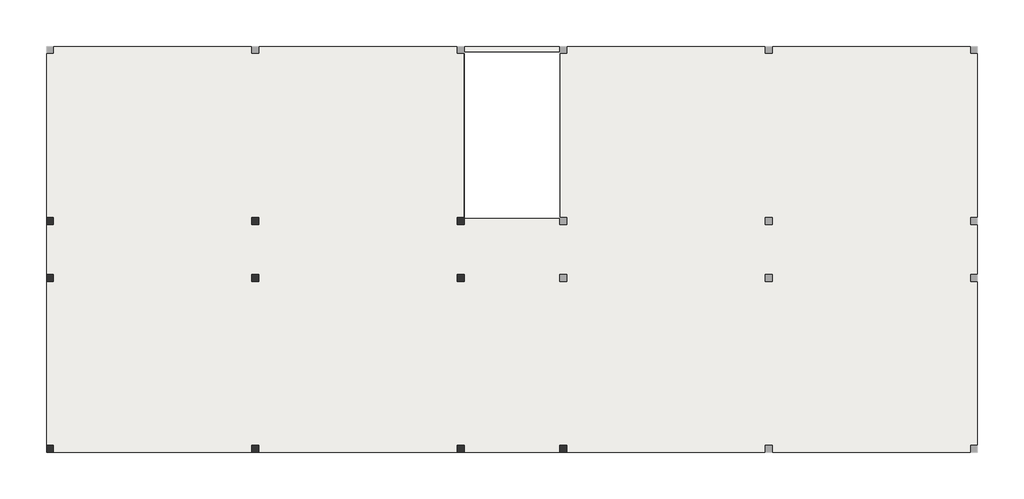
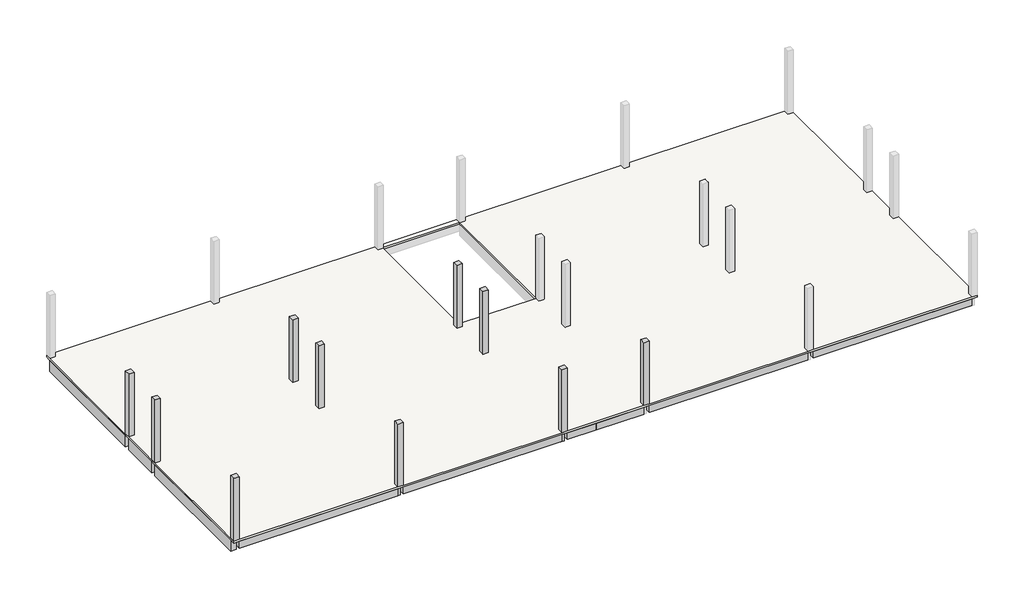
# One storey, part 1 of 2: 10 columns, 9 beams, 1 slab.
"""IFC4 building model written with IfcOpenShell, lengths in millimetres."""

from ifc_helpers import new_model, si_unit, frame, origin, place, context, project, spatial, polyline, outline, extrude, faceted_brep, element, save

model = new_model("IFC4")

# Units and contexts
model_context = context("Model", 3, world=origin())
ifc_project = project(units=[si_unit("LENGTHUNIT", "METRE", prefix="MILLI")], contexts=[model_context])

# Site, building, storey
site = spatial("IfcSite", under=ifc_project)
building = spatial("IfcBuilding", under=site)
storey = spatial("IfcBuildingStorey", under=building, Name="标高 3", Elevation=6000.0)

# Beams
placement = place(None, origin())
element("IfcBeam", 1, ObjectType="混凝土 - 矩形梁 : KL1", at=placement, inside=storey, context=model_context, shape_type="Brep", body=[
    faceted_brep([(-16195.2046881, -564.7297059, 5400.0), (-16195.2046881, 5195.2702941, 5400.0), (-16195.2046881, 5195.2702941, 5920.0), (-16195.2046881, 3415.2702941, 5920.0), (-16195.2046881, 3215.2702941, 5920.0), (-16195.2046881, 1415.2702941, 5920.0), (-16195.2046881, 1215.2702941, 5920.0), (-16195.2046881, -564.7297059, 5920.0), (-16435.2046881, -564.7297059, 5400.0), (-16435.2046881, 5195.2702941, 5400.0), (-16435.2046881, -564.7297059, 5920.0), (-16435.2046881, 5195.2702941, 5920.0)], [[[0, 1, 2, 3, 4, 5, 6, 7]], [[0, 8, 9, 1]], [[9, 8, 10, 11]], [[8, 0, 7, 10]], [[1, 9, 11, 2]], [[7, 6, 5, 4, 3, 2, 11, 10]]]),
    faceted_brep([(-16435.2046881, -8564.7297059, 5400.0), (-16195.2046881, -8564.7297059, 5400.0), (-16195.2046881, -8564.7297059, 5920.0), (-16435.2046881, -8564.7297059, 5920.0), (-16195.2046881, -2804.7297059, 5400.0), (-16435.2046881, -2804.7297059, 5400.0), (-16435.2046881, -2804.7297059, 5920.0), (-16195.2046881, -2804.7297059, 5920.0), (-16195.2046881, -4584.7297059, 5920.0), (-16195.2046881, -4784.7297059, 5920.0), (-16195.2046881, -6584.7297059, 5920.0), (-16195.2046881, -6784.7297059, 5920.0)], [[[0, 1, 2, 3]], [[4, 5, 6, 7]], [[1, 4, 7, 8, 9, 10, 11, 2]], [[1, 0, 5, 4]], [[5, 0, 3, 6]], [[3, 2, 11, 10, 9, 8, 7, 6]]]),
    faceted_brep([(-16435.2046881, -2564.7297059, 5400.0), (-16195.2046881, -2564.7297059, 5400.0), (-16195.2046881, -2564.7297059, 5920.0), (-16435.2046881, -2564.7297059, 5920.0), (-16195.2046881, -804.7297059, 5400.0), (-16435.2046881, -804.7297059, 5400.0), (-16435.2046881, -804.7297059, 5920.0), (-16195.2046881, -804.7297059, 5920.0)], [[[0, 1, 2, 3]], [[4, 5, 6, 7]], [[1, 0, 5, 4]], [[1, 4, 7, 2]], [[5, 0, 3, 6]], [[3, 2, 7, 6]]]),
])
element("IfcBeam", 2, ObjectType="混凝土 - 矩形梁 : KL1", at=placement, inside=storey, context=model_context, shape_type="Brep", body=[
    faceted_brep([(-8995.2046881, -564.7297059, 5400.0), (-8995.2046881, 5195.2702941, 5400.0), (-8995.2046881, 5195.2702941, 5920.0), (-8995.2046881, 3415.2702941, 5920.0), (-8995.2046881, 3215.2702941, 5920.0), (-8995.2046881, 1415.2702941, 5920.0), (-8995.2046881, 1215.2702941, 5920.0), (-8995.2046881, -564.7297059, 5920.0), (-9235.2046881, -564.7297059, 5400.0), (-9235.2046881, 5195.2702941, 5400.0), (-9235.2046881, -564.7297059, 5920.0), (-9235.2046881, 1215.2702941, 5920.0), (-9235.2046881, 1415.2702941, 5920.0), (-9235.2046881, 3215.2702941, 5920.0), (-9235.2046881, 3415.2702941, 5920.0), (-9235.2046881, 5195.2702941, 5920.0)], [[[0, 1, 2, 3, 4, 5, 6, 7]], [[0, 8, 9, 1]], [[9, 8, 10, 11, 12, 13, 14, 15]], [[8, 0, 7, 10]], [[1, 9, 15, 2]], [[7, 6, 5, 4, 3, 2, 15, 14, 13, 12, 11, 10]]]),
    faceted_brep([(-9235.2046881, -8564.7297059, 5400.0), (-8995.2046881, -8564.7297059, 5400.0), (-8995.2046881, -8564.7297059, 5920.0), (-9235.2046881, -8564.7297059, 5920.0), (-8995.2046881, -2804.7297059, 5400.0), (-9235.2046881, -2804.7297059, 5400.0), (-9235.2046881, -2804.7297059, 5920.0), (-8995.2046881, -2804.7297059, 5920.0), (-8995.2046881, -4584.7297059, 5920.0), (-8995.2046881, -4784.7297059, 5920.0), (-8995.2046881, -6584.7297059, 5920.0), (-8995.2046881, -6784.7297059, 5920.0), (-9235.2046881, -6784.7297059, 5920.0), (-9235.2046881, -6584.7297059, 5920.0), (-9235.2046881, -4784.7297059, 5920.0), (-9235.2046881, -4584.7297059, 5920.0)], [[[0, 1, 2, 3]], [[4, 5, 6, 7]], [[1, 4, 7, 8, 9, 10, 11, 2]], [[1, 0, 5, 4]], [[5, 0, 3, 12, 13, 14, 15, 6]], [[3, 2, 11, 10, 9, 8, 7, 6, 15, 14, 13, 12]]]),
    faceted_brep([(-9235.2046881, -2564.7297059, 5400.0), (-8995.2046881, -2564.7297059, 5400.0), (-8995.2046881, -2564.7297059, 5920.0), (-9235.2046881, -2564.7297059, 5920.0), (-8995.2046881, -804.7297059, 5400.0), (-9235.2046881, -804.7297059, 5400.0), (-9235.2046881, -804.7297059, 5920.0), (-8995.2046881, -804.7297059, 5920.0)], [[[0, 1, 2, 3]], [[4, 5, 6, 7]], [[1, 0, 5, 4]], [[1, 4, 7, 2]], [[5, 0, 3, 6]], [[3, 2, 7, 6]]]),
])
element("IfcBeam", 3, ObjectType="混凝土 - 矩形梁 : KL1", at=placement, inside=storey, context=model_context, shape_type="Brep", body=[
    faceted_brep([(-1795.2046881, -564.7297059, 5400.0), (-1795.2046881, 5195.2702941, 5400.0), (-1795.2046881, 5195.2702941, 5920.0), (-1795.2046881, -564.7297059, 5920.0), (-2035.2046881, -564.7297059, 5400.0), (-2035.2046881, 5195.2702941, 5400.0), (-2035.2046881, -564.7297059, 5920.0), (-2035.2046881, 1215.2702941, 5920.0), (-2035.2046881, 1415.2702941, 5920.0), (-2035.2046881, 3215.2702941, 5920.0), (-2035.2046881, 3415.2702941, 5920.0), (-2035.2046881, 5195.2702941, 5920.0)], [[[0, 1, 2, 3]], [[0, 4, 5, 1]], [[5, 4, 6, 7, 8, 9, 10, 11]], [[4, 0, 3, 6]], [[1, 5, 11, 2]], [[3, 2, 11, 10, 9, 8, 7, 6]]]),
    faceted_brep([(-2035.2046881, -8564.7297059, 5400.0), (-1795.2046881, -8564.7297059, 5400.0), (-1795.2046881, -8564.7297059, 5920.0), (-2035.2046881, -8564.7297059, 5920.0), (-1795.2046881, -2804.7297059, 5400.0), (-2035.2046881, -2804.7297059, 5400.0), (-2035.2046881, -2804.7297059, 5920.0), (-1795.2046881, -2804.7297059, 5920.0), (-2035.2046881, -6784.7297059, 5920.0), (-2035.2046881, -6584.7297059, 5920.0), (-2035.2046881, -4784.7297059, 5920.0), (-2035.2046881, -4584.7297059, 5920.0)], [[[0, 1, 2, 3]], [[4, 5, 6, 7]], [[1, 4, 7, 2]], [[1, 0, 5, 4]], [[5, 0, 3, 8, 9, 10, 11, 6]], [[3, 2, 7, 6, 11, 10, 9, 8]]]),
    faceted_brep([(-2035.2046881, -2564.7297059, 5400.0), (-1795.2046881, -2564.7297059, 5400.0), (-1795.2046881, -2564.7297059, 5920.0), (-2035.2046881, -2564.7297059, 5920.0), (-1795.2046881, -804.7297059, 5400.0), (-2035.2046881, -804.7297059, 5400.0), (-2035.2046881, -804.7297059, 5920.0), (-1795.2046881, -804.7297059, 5920.0)], [[[0, 1, 2, 3]], [[4, 5, 6, 7]], [[1, 0, 5, 4]], [[1, 4, 7, 2]], [[5, 0, 3, 6]], [[3, 2, 7, 6]]]),
])
element("IfcBeam", 4, ObjectType="混凝土 - 矩形梁 : KL2", at=placement, inside=storey, context=model_context, shape_type="SweptSolid", body=[
    extrude(outline(polyline([(-535.2046881, -8804.7297059), (-1795.2046881, -8804.7297059), (-1795.2046881, -8604.7297059), (-535.2046881, -8604.7297059), (-535.2046881, -8804.7297059)])), frame((0.0, 0.0, 5600.0), z_axis=(0.0, 0.0, 1.0), x_axis=(1.0, 0.0, 0.0)), (0.0, 0.0, 1.0), 320.0),
    extrude(outline(polyline([(-16195.2046881, -8804.7297059), (-16195.2046881, -8604.7297059), (-9235.2046881, -8604.7297059), (-9235.2046881, -8804.7297059), (-16195.2046881, -8804.7297059)])), frame((0.0, 0.0, 5600.0), z_axis=(0.0, 0.0, 1.0), x_axis=(1.0, 0.0, 0.0)), (0.0, 0.0, 1.0), 320.0),
    extrude(outline(polyline([(-8995.2046881, -8804.7297059), (-8995.2046881, -8604.7297059), (-2035.2046881, -8604.7297059), (-2035.2046881, -8804.7297059), (-8995.2046881, -8804.7297059)])), frame((0.0, 0.0, 5600.0), z_axis=(0.0, 0.0, 1.0), x_axis=(1.0, 0.0, 0.0)), (0.0, 0.0, 1.0), 320.0),
])
element("IfcBeam", 5, ObjectType="混凝土 - 矩形梁 : KL2", at=placement, inside=storey, context=model_context, shape_type="SweptSolid", body=[
    extrude(outline(polyline([(-8995.2046881, -2784.7297059), (-8995.2046881, -2584.7297059), (-2035.2046881, -2584.7297059), (-2035.2046881, -2784.7297059), (-8995.2046881, -2784.7297059)])), frame((0.0, 0.0, 5600.0), z_axis=(0.0, 0.0, 1.0), x_axis=(1.0, 0.0, 0.0)), (0.0, 0.0, 1.0), 320.0),
    extrude(outline(polyline([(-16195.2046881, -2784.7297059), (-16195.2046881, -2584.7297059), (-9235.2046881, -2584.7297059), (-9235.2046881, -2784.7297059), (-16195.2046881, -2784.7297059)])), frame((0.0, 0.0, 5600.0), z_axis=(0.0, 0.0, 1.0), x_axis=(1.0, 0.0, 0.0)), (0.0, 0.0, 1.0), 320.0),
])
element("IfcBeam", 6, ObjectType="混凝土 - 矩形梁 : KL2", at=placement, inside=storey, context=model_context, shape_type="SweptSolid", body=[
    extrude(outline(polyline([(-8995.2046881, -784.7297059), (-8995.2046881, -584.7297059), (-2035.2046881, -584.7297059), (-2035.2046881, -784.7297059), (-8995.2046881, -784.7297059)])), frame((0.0, 0.0, 5600.0), z_axis=(0.0, 0.0, 1.0), x_axis=(1.0, 0.0, 0.0)), (0.0, 0.0, 1.0), 320.0),
    extrude(outline(polyline([(-16195.2046881, -784.7297059), (-16195.2046881, -584.7297059), (-9235.2046881, -584.7297059), (-9235.2046881, -784.7297059), (-16195.2046881, -784.7297059)])), frame((0.0, 0.0, 5600.0), z_axis=(0.0, 0.0, 1.0), x_axis=(1.0, 0.0, 0.0)), (0.0, 0.0, 1.0), 320.0),
])
element("IfcBeam", 7, ObjectType="混凝土 - 矩形梁 : KL2", at=placement, inside=storey, context=model_context, shape_type="SweptSolid", body=[
    extrude(outline(polyline([(-16195.2046881, -4784.7297059), (-16195.2046881, -4584.7297059), (-9235.2046881, -4584.7297059), (-9235.2046881, -4784.7297059), (-16195.2046881, -4784.7297059)])), frame((0.0, 0.0, 5600.0), z_axis=(0.0, 0.0, 1.0), x_axis=(1.0, 0.0, 0.0)), (0.0, 0.0, 1.0), 320.0),
    extrude(outline(polyline([(-8995.2046881, -4784.7297059), (-8995.2046881, -4584.7297059), (-2035.2046881, -4584.7297059), (-2035.2046881, -4784.7297059), (-8995.2046881, -4784.7297059)])), frame((0.0, 0.0, 5600.0), z_axis=(0.0, 0.0, 1.0), x_axis=(1.0, 0.0, 0.0)), (0.0, 0.0, 1.0), 320.0),
])
element("IfcBeam", 8, ObjectType="混凝土 - 矩形梁 : KL2", at=placement, inside=storey, context=model_context, shape_type="SweptSolid", body=[
    extrude(outline(polyline([(-16195.2046881, -6784.7297059), (-16195.2046881, -6584.7297059), (-9235.2046881, -6584.7297059), (-9235.2046881, -6784.7297059), (-16195.2046881, -6784.7297059)])), frame((0.0, 0.0, 5600.0), z_axis=(0.0, 0.0, 1.0), x_axis=(1.0, 0.0, 0.0)), (0.0, 0.0, 1.0), 320.0),
    extrude(outline(polyline([(-8995.2046881, -6784.7297059), (-8995.2046881, -6584.7297059), (-2035.2046881, -6584.7297059), (-2035.2046881, -6784.7297059), (-8995.2046881, -6784.7297059)])), frame((0.0, 0.0, 5600.0), z_axis=(0.0, 0.0, 1.0), x_axis=(1.0, 0.0, 0.0)), (0.0, 0.0, 1.0), 320.0),
])
element("IfcBeam", 9, ObjectType="混凝土 - 矩形梁 : KL2", at=placement, inside=storey, context=model_context, shape_type="SweptSolid", body=[
    extrude(outline(polyline([(9004.7953119, -8804.7297059), (9004.7953119, -8604.7297059), (15964.7953119, -8604.7297059), (15964.7953119, -8804.7297059), (9004.7953119, -8804.7297059)])), frame((0.0, 0.0, 5600.0), z_axis=(0.0, 0.0, 1.0), x_axis=(1.0, 0.0, 0.0)), (0.0, 0.0, 1.0), 320.0),
    extrude(outline(polyline([(-535.2046881, -8804.7297059), (-535.2046881, -8604.7297059), (1564.7953119, -8604.7297059), (1564.7953119, -8804.7297059), (-535.2046881, -8804.7297059)])), frame((0.0, 0.0, 5600.0), z_axis=(0.0, 0.0, 1.0), x_axis=(1.0, 0.0, 0.0)), (0.0, 0.0, 1.0), 320.0),
    extrude(outline(polyline([(1804.7953119, -8804.7297059), (1804.7953119, -8604.7297059), (8764.7953119, -8604.7297059), (8764.7953119, -8804.7297059), (1804.7953119, -8804.7297059)])), frame((0.0, 0.0, 5600.0), z_axis=(0.0, 0.0, 1.0), x_axis=(1.0, 0.0, 0.0)), (0.0, 0.0, 1.0), 320.0),
])

# Columns
element("IfcColumn", 10, ObjectType="混凝土 - 矩形 - 柱 : KZ", at=placement, inside=storey, context=model_context, shape_type="SweptSolid", body=[
    extrude(outline(polyline([(-16195.2046881, -8564.7297059), (-16195.2046881, -8804.7297059), (-16435.2046881, -8804.7297059), (-16435.2046881, -8564.7297059), (-16195.2046881, -8564.7297059)])), frame((0.0, 0.0, 6000.0), z_axis=(0.0, 0.0, 1.0), x_axis=(1.0, 0.0, 0.0)), (0.0, 0.0, 1.0), 2920.0),
])
element("IfcColumn", 11, ObjectType="混凝土 - 矩形 - 柱 : KZ", at=placement, inside=storey, context=model_context, shape_type="Brep", body=[
    faceted_brep([(-16195.2046881, -2564.7297059, 6000.0), (-16195.2046881, -2804.7297059, 6000.0), (-16435.2046881, -2804.7297059, 6000.0), (-16435.2046881, -2564.7297059, 6000.0), (-16195.2046881, -2564.7297059, 8400.0), (-16195.2046881, -2564.7297059, 8920.0), (-16195.2046881, -2804.7297059, 8920.0), (-16195.2046881, -2804.7297059, 8400.0), (-16435.2046881, -2804.7297059, 8920.0), (-16435.2046881, -2804.7297059, 8400.0), (-16435.2046881, -2564.7297059, 8920.0), (-16435.2046881, -2564.7297059, 8400.0)], [[[0, 1, 2, 3]], [[1, 0, 4, 5, 6, 7]], [[2, 1, 7, 6, 8, 9]], [[3, 2, 9, 8, 10, 11]], [[0, 3, 11, 10, 5, 4]], [[6, 5, 10, 8]]]),
])
element("IfcColumn", 12, ObjectType="混凝土 - 矩形 - 柱 : KZ", at=placement, inside=storey, context=model_context, shape_type="Brep", body=[
    faceted_brep([(-16195.2046881, -564.7297059, 6000.0), (-16195.2046881, -804.7297059, 6000.0), (-16435.2046881, -804.7297059, 6000.0), (-16435.2046881, -564.7297059, 6000.0), (-16195.2046881, -564.7297059, 8400.0), (-16195.2046881, -564.7297059, 8920.0), (-16195.2046881, -804.7297059, 8920.0), (-16195.2046881, -804.7297059, 8400.0), (-16435.2046881, -804.7297059, 8920.0), (-16435.2046881, -804.7297059, 8400.0), (-16435.2046881, -564.7297059, 8920.0), (-16435.2046881, -564.7297059, 8400.0)], [[[0, 1, 2, 3]], [[1, 0, 4, 5, 6, 7]], [[2, 1, 7, 6, 8, 9]], [[3, 2, 9, 8, 10, 11]], [[0, 3, 11, 10, 5, 4]], [[6, 5, 10, 8]]]),
])
element("IfcColumn", 13, ObjectType="混凝土 - 矩形 - 柱 : KZ", at=placement, inside=storey, context=model_context, shape_type="Brep", body=[
    faceted_brep([(-8995.2046881, -8564.7297059, 6000.0), (-8995.2046881, -8804.7297059, 6000.0), (-9235.2046881, -8804.7297059, 6000.0), (-9235.2046881, -8564.7297059, 6000.0), (-8995.2046881, -8564.7297059, 8920.0), (-8995.2046881, -8604.7297059, 8920.0), (-8995.2046881, -8804.7297059, 8920.0), (-8995.2046881, -8804.7297059, 8600.0), (-9235.2046881, -8804.7297059, 8920.0), (-9235.2046881, -8804.7297059, 8600.0), (-9235.2046881, -8604.7297059, 8920.0), (-9235.2046881, -8564.7297059, 8920.0)], [[[0, 1, 2, 3]], [[1, 0, 4, 5, 6, 7]], [[2, 1, 7, 6, 8, 9]], [[3, 2, 9, 8, 10, 11]], [[0, 3, 11, 4]], [[6, 5, 4, 11, 10, 8]]]),
])
element("IfcColumn", 14, ObjectType="混凝土 - 矩形 - 柱 : KZ", at=placement, inside=storey, context=model_context, shape_type="Brep", body=[
    faceted_brep([(-8995.2046881, -2564.7297059, 6000.0), (-8995.2046881, -2804.7297059, 6000.0), (-9235.2046881, -2804.7297059, 6000.0), (-9235.2046881, -2564.7297059, 6000.0), (-8995.2046881, -2564.7297059, 8400.0), (-8995.2046881, -2564.7297059, 8920.0), (-8995.2046881, -2584.7297059, 8920.0), (-8995.2046881, -2784.7297059, 8920.0), (-8995.2046881, -2804.7297059, 8920.0), (-8995.2046881, -2804.7297059, 8400.0), (-9235.2046881, -2804.7297059, 8920.0), (-9235.2046881, -2804.7297059, 8400.0), (-9235.2046881, -2784.7297059, 8920.0), (-9235.2046881, -2584.7297059, 8920.0), (-9235.2046881, -2564.7297059, 8920.0), (-9235.2046881, -2564.7297059, 8400.0)], [[[0, 1, 2, 3]], [[1, 0, 4, 5, 6, 7, 8, 9]], [[2, 1, 9, 8, 10, 11]], [[3, 2, 11, 10, 12, 13, 14, 15]], [[0, 3, 15, 14, 5, 4]], [[8, 7, 6, 5, 14, 13, 12, 10]]]),
])
element("IfcColumn", 15, ObjectType="混凝土 - 矩形 - 柱 : KZ", at=placement, inside=storey, context=model_context, shape_type="Brep", body=[
    faceted_brep([(-8995.2046881, -564.7297059, 6000.0), (-8995.2046881, -804.7297059, 6000.0), (-9235.2046881, -804.7297059, 6000.0), (-9235.2046881, -564.7297059, 6000.0), (-8995.2046881, -564.7297059, 8400.0), (-8995.2046881, -564.7297059, 8920.0), (-8995.2046881, -584.7297059, 8920.0), (-8995.2046881, -784.7297059, 8920.0), (-8995.2046881, -804.7297059, 8920.0), (-8995.2046881, -804.7297059, 8400.0), (-9235.2046881, -804.7297059, 8920.0), (-9235.2046881, -804.7297059, 8400.0), (-9235.2046881, -784.7297059, 8920.0), (-9235.2046881, -584.7297059, 8920.0), (-9235.2046881, -564.7297059, 8920.0), (-9235.2046881, -564.7297059, 8400.0)], [[[0, 1, 2, 3]], [[1, 0, 4, 5, 6, 7, 8, 9]], [[2, 1, 9, 8, 10, 11]], [[3, 2, 11, 10, 12, 13, 14, 15]], [[0, 3, 15, 14, 5, 4]], [[8, 7, 6, 5, 14, 13, 12, 10]]]),
])
element("IfcColumn", 16, ObjectType="混凝土 - 矩形 - 柱 : KZ", at=placement, inside=storey, context=model_context, shape_type="Brep", body=[
    faceted_brep([(-1795.2046881, -8564.7297059, 6000.0), (-1795.2046881, -8804.7297059, 6000.0), (-2035.2046881, -8804.7297059, 6000.0), (-2035.2046881, -8564.7297059, 6000.0), (-1795.2046881, -8564.7297059, 8920.0), (-1795.2046881, -8604.7297059, 8920.0), (-1795.2046881, -8804.7297059, 8920.0), (-1795.2046881, -8804.7297059, 8600.0), (-2035.2046881, -8804.7297059, 8920.0), (-2035.2046881, -8804.7297059, 8600.0), (-2035.2046881, -8604.7297059, 8920.0), (-2035.2046881, -8564.7297059, 8920.0)], [[[0, 1, 2, 3]], [[1, 0, 4, 5, 6, 7]], [[2, 1, 7, 6, 8, 9]], [[3, 2, 9, 8, 10, 11]], [[0, 3, 11, 4]], [[6, 5, 4, 11, 10, 8]]]),
])
element("IfcColumn", 17, ObjectType="混凝土 - 矩形 - 柱 : KZ", at=placement, inside=storey, context=model_context, shape_type="Brep", body=[
    faceted_brep([(-1795.2046881, -2564.7297059, 6000.0), (-1795.2046881, -2804.7297059, 6000.0), (-2035.2046881, -2804.7297059, 6000.0), (-2035.2046881, -2564.7297059, 6000.0), (-1795.2046881, -2564.7297059, 8400.0), (-1795.2046881, -2564.7297059, 8920.0), (-1795.2046881, -2804.7297059, 8920.0), (-1795.2046881, -2804.7297059, 8400.0), (-2035.2046881, -2804.7297059, 8920.0), (-2035.2046881, -2804.7297059, 8400.0), (-2035.2046881, -2564.7297059, 8920.0), (-2035.2046881, -2564.7297059, 8400.0)], [[[0, 1, 2, 3]], [[1, 0, 4, 5, 6, 7]], [[2, 1, 7, 6, 8, 9]], [[3, 2, 9, 8, 10, 11]], [[0, 3, 11, 10, 5, 4]], [[6, 5, 10, 8]]]),
])
element("IfcColumn", 18, ObjectType="混凝土 - 矩形 - 柱 : KZ", at=placement, inside=storey, context=model_context, shape_type="Brep", body=[
    faceted_brep([(-1795.2046881, -564.7297059, 6000.0), (-1795.2046881, -584.7297059, 6000.0), (-1795.2046881, -804.7297059, 6000.0), (-2035.2046881, -804.7297059, 6000.0), (-2035.2046881, -564.7297059, 6000.0), (-1795.2046881, -564.7297059, 8400.0), (-1795.2046881, -564.7297059, 8920.0), (-1795.2046881, -804.7297059, 8920.0), (-1795.2046881, -804.7297059, 8400.0), (-2035.2046881, -804.7297059, 8920.0), (-2035.2046881, -804.7297059, 8400.0), (-2035.2046881, -564.7297059, 8920.0), (-2035.2046881, -564.7297059, 8400.0)], [[[0, 1, 2, 3, 4]], [[2, 1, 0, 5, 6, 7, 8]], [[3, 2, 8, 7, 9, 10]], [[4, 3, 10, 9, 11, 12]], [[0, 4, 12, 11, 6, 5]], [[7, 6, 11, 9]]]),
])
element("IfcColumn", 19, ObjectType="混凝土 - 矩形 - 柱 : KZ", at=placement, inside=storey, context=model_context, shape_type="Brep", body=[
    faceted_brep([(1804.7953119, -8564.7297059, 6000.0), (1804.7953119, -8804.7297059, 6000.0), (1564.7953119, -8804.7297059, 6000.0), (1564.7953119, -8564.7297059, 6000.0), (1804.7953119, -8564.7297059, 8920.0), (1804.7953119, -8604.7297059, 8920.0), (1804.7953119, -8804.7297059, 8920.0), (1804.7953119, -8804.7297059, 8600.0), (1564.7953119, -8804.7297059, 8920.0), (1564.7953119, -8804.7297059, 8600.0), (1564.7953119, -8604.7297059, 8920.0), (1564.7953119, -8564.7297059, 8920.0)], [[[0, 1, 2, 3]], [[1, 0, 4, 5, 6, 7]], [[2, 1, 7, 6, 8, 9]], [[3, 2, 9, 8, 10, 11]], [[0, 3, 11, 4]], [[6, 5, 4, 11, 10, 8]]]),
])

# Slab
element("IfcSlab", 20, ObjectType="常规 - 80mm", at=placement, inside=storey, context=model_context, shape_type="Brep", body=[
    faceted_brep([(16204.7953119, 5435.2702941, 5920.0), (16204.7953119, 5195.2702941, 5920.0), (16204.7953119, -564.7297059, 5920.0), (16204.7953119, -804.7297059, 5920.0), (16204.7953119, -2564.7297059, 5920.0), (16204.7953119, -2804.7297059, 5920.0), (16204.7953119, -8564.7297059, 5920.0), (16204.7953119, -8804.7297059, 5920.0), (15964.7953119, -8804.7297059, 5920.0), (9004.7953119, -8804.7297059, 5920.0), (8764.7953119, -8804.7297059, 5920.0), (1804.7953119, -8804.7297059, 5920.0), (1564.7953119, -8804.7297059, 5920.0), (-535.2046881, -8804.7297059, 5920.0), (-1795.2046881, -8804.7297059, 5920.0), (-2035.2046881, -8804.7297059, 5920.0), (-8995.2046881, -8804.7297059, 5920.0), (-9235.2046881, -8804.7297059, 5920.0), (-16195.2046881, -8804.7297059, 5920.0), (-16435.2046881, -8804.7297059, 5920.0), (-16435.2046881, -8564.7297059, 5920.0), (-16435.2046881, -2804.7297059, 5920.0), (-16435.2046881, -2564.7297059, 5920.0), (-16435.2046881, -804.7297059, 5920.0), (-16435.2046881, -564.7297059, 5920.0), (-16435.2046881, 5195.2702941, 5920.0), (-16435.2046881, 5435.2702941, 5920.0), (-16195.2046881, 5435.2702941, 5920.0), (-9235.2046881, 5435.2702941, 5920.0), (-8995.2046881, 5435.2702941, 5920.0), (-2035.2046881, 5435.2702941, 5920.0), (-1795.2046881, 5435.2702941, 5920.0), (1564.7953119, 5435.2702941, 5920.0), (1804.7953119, 5435.2702941, 5920.0), (8764.7953119, 5435.2702941, 5920.0), (9004.7953119, 5435.2702941, 5920.0), (15964.7953119, 5435.2702941, 5920.0), (1564.7953119, 5235.2702941, 5920.0), (-1795.2046881, 5235.2702941, 5920.0), (-1795.2046881, 5195.2702941, 5920.0), (-1795.2046881, -564.7297059, 5920.0), (-1795.2046881, -584.7297059, 5920.0), (1564.7953119, -584.7297059, 5920.0), (1564.7953119, -564.7297059, 5920.0), (1564.7953119, 5195.2702941, 5920.0), (16204.7953119, 5435.2702941, 6000.0), (15964.7953119, 5435.2702941, 6000.0), (9004.7953119, 5435.2702941, 6000.0), (8764.7953119, 5435.2702941, 6000.0), (1804.7953119, 5435.2702941, 6000.0), (1564.7953119, 5435.2702941, 6000.0), (-1795.2046881, 5435.2702941, 6000.0), (-2035.2046881, 5435.2702941, 6000.0), (-8995.2046881, 5435.2702941, 6000.0), (-9235.2046881, 5435.2702941, 6000.0), (-16195.2046881, 5435.2702941, 6000.0), (-16435.2046881, 5435.2702941, 6000.0), (-16435.2046881, 5195.2702941, 6000.0), (-16435.2046881, -564.7297059, 6000.0), (-16435.2046881, -804.7297059, 6000.0), (-16435.2046881, -2564.7297059, 6000.0), (-16435.2046881, -2804.7297059, 6000.0), (-16435.2046881, -8564.7297059, 6000.0), (-16435.2046881, -8804.7297059, 6000.0), (-16195.2046881, -8804.7297059, 6000.0), (-9235.2046881, -8804.7297059, 6000.0), (-8995.2046881, -8804.7297059, 6000.0), (-2035.2046881, -8804.7297059, 6000.0), (-1795.2046881, -8804.7297059, 6000.0), (1564.7953119, -8804.7297059, 6000.0), (1804.7953119, -8804.7297059, 6000.0), (8764.7953119, -8804.7297059, 6000.0), (9004.7953119, -8804.7297059, 6000.0), (15964.7953119, -8804.7297059, 6000.0), (16204.7953119, -8804.7297059, 6000.0), (16204.7953119, -8564.7297059, 6000.0), (16204.7953119, -2804.7297059, 6000.0), (16204.7953119, -2564.7297059, 6000.0), (16204.7953119, -804.7297059, 6000.0), (16204.7953119, -564.7297059, 6000.0), (16204.7953119, 5195.2702941, 6000.0), (1564.7953119, 5235.2702941, 6000.0), (1564.7953119, 5195.2702941, 6000.0), (1564.7953119, -564.7297059, 6000.0), (1564.7953119, -584.7297059, 6000.0), (-1795.2046881, -584.7297059, 6000.0), (-1795.2046881, -564.7297059, 6000.0), (-1795.2046881, 5195.2702941, 6000.0), (-1795.2046881, 5235.2702941, 6000.0)], [[[0, 1, 2, 3, 4, 5, 6, 7, 8, 9, 10, 11, 12, 13, 14, 15, 16, 17, 18, 19, 20, 21, 22, 23, 24, 25, 26, 27, 28, 29, 30, 31, 32, 33, 34, 35, 36], [37, 38, 39, 40, 41, 42, 43, 44]], [[45, 46, 47, 48, 49, 50, 51, 52, 53, 54, 55, 56, 57, 58, 59, 60, 61, 62, 63, 64, 65, 66, 67, 68, 69, 70, 71, 72, 73, 74, 75, 76, 77, 78, 79, 80], [81, 82, 83, 84, 85, 86, 87, 88]], [[7, 6, 5, 4, 3, 2, 1, 0, 45, 80, 79, 78, 77, 76, 75, 74]], [[19, 18, 17, 16, 15, 14, 13, 12, 11, 10, 9, 8, 7, 74, 73, 72, 71, 70, 69, 68, 67, 66, 65, 64, 63]], [[26, 25, 24, 23, 22, 21, 20, 19, 63, 62, 61, 60, 59, 58, 57, 56]], [[0, 36, 35, 34, 33, 32, 31, 30, 29, 28, 27, 26, 56, 55, 54, 53, 52, 51, 50, 49, 48, 47, 46, 45]], [[38, 37, 81, 88]], [[41, 40, 39, 38, 88, 87, 86, 85]], [[42, 41, 85, 84]], [[37, 44, 43, 42, 84, 83, 82, 81]]]),
])

save(model, "model.ifc")
